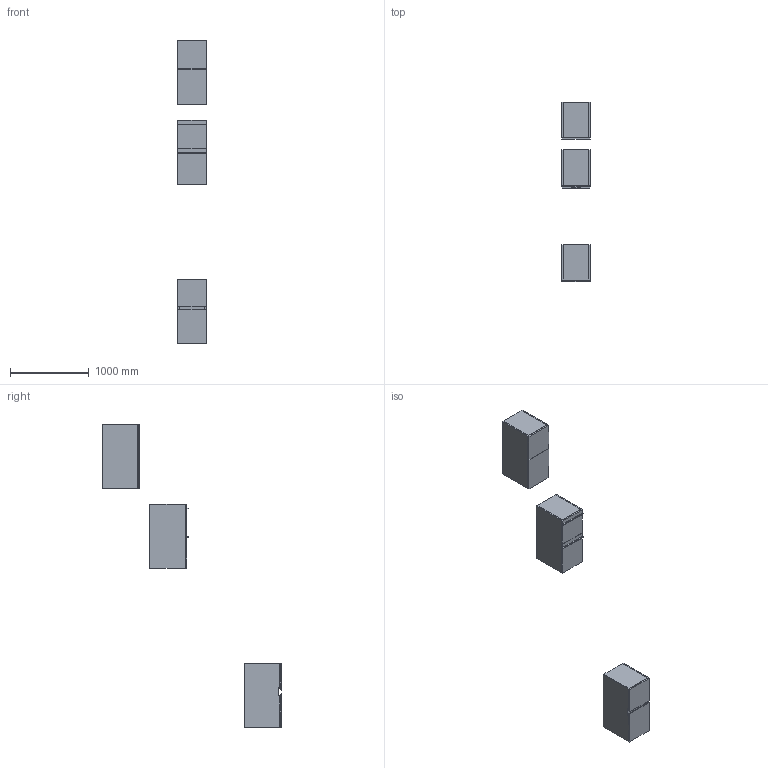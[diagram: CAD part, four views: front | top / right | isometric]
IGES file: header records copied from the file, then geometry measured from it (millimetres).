
Start section: Data from Parasolid IGES Translator 19.0.9, Copyright(c) 2006 Siemens PL M Software. All Rights Reserved.
Global section: file name: noorth-SI-H 81,2 D 47 W 36_8706.igs; native system: By Siemens PLM Incorporated; preprocessor: XPlus GENERIC/IGES 19.0.9; author: Noname; organization: Noname; date: 20200601.135743; units: metre
Bounding box: 360 x 2270 x 3842 mm (x, y, z)
Volume: 67756236.3 mm3; surface area: 10097180.7 mm2
Topology: 24 solids, 24 shells, 248 faces, 544 edges, 324 vertices
Faces by surface type: plane 164, extrusion 36, bspline 32, cylinder 16
